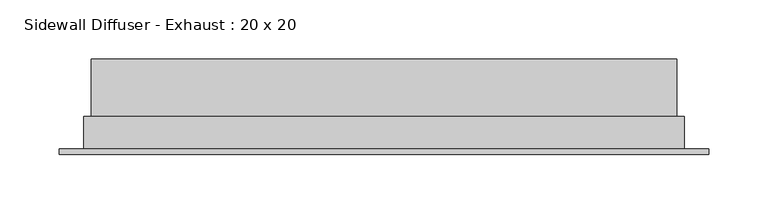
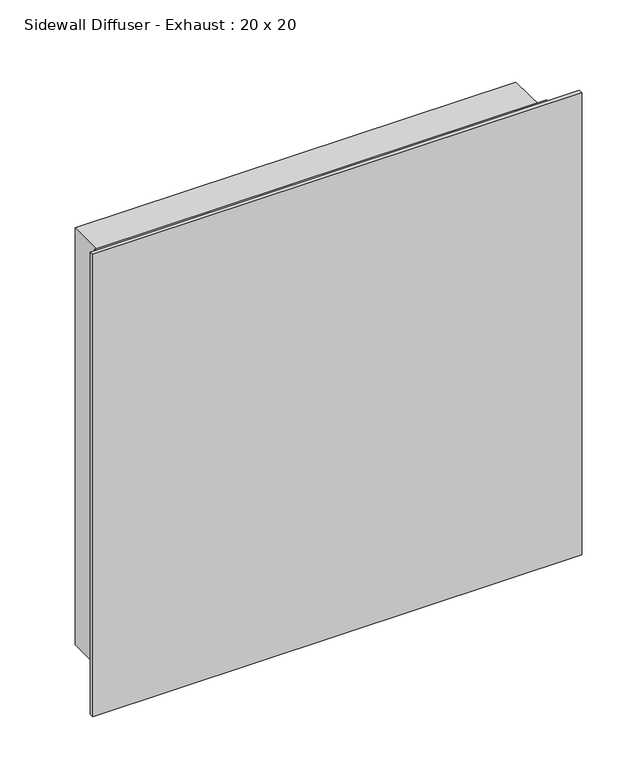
"""IFC4 building model written with IfcOpenShell, lengths in millimetres: air terminal geometry, Sidewall Diffuser - Exhaust : 20 x 20."""

import ifcopenshell
import ifcopenshell.guid

model = None  # the IFC model being written
_history = None  # IfcOwnerHistory: only IFC2X3 demands one
_inside = {}  # id of a spatial element -> (the spatial element, [elements in it])
_under = {}  # id of a project, library or spatial element -> (it, [spatial elements below it])
_declared = {}  # id of a project -> (the project, [libraries it declares])
_typed = {}  # id of a type object -> (the type object, [elements of that type])
_made_of = {}  # id of a material, layer set ... -> (it, [elements and type objects made of it])


def new_model(schema):
    """Start an empty IFC model of exactly this schema.

    Asked for "IFC4X3", IfcOpenShell would pick the latest addendum, in which some entities
    have other attributes; the version numbers below select the first issue.
    IFC2X3 requires an IfcOwnerHistory on every rooted entity: one is made here for all.
    """
    global model, _history
    if schema == "IFC4X3":
        model = ifcopenshell.file(schema_version=(4, 3, 0, 0))
    else:
        model = ifcopenshell.file(schema=schema)
    _inside.clear()
    _under.clear()
    _declared.clear()
    _typed.clear()
    _made_of.clear()
    _history = None
    if model.schema == "IFC2X3":
        org = make("IfcOrganization", Name="unknown")
        user = make(
            "IfcPersonAndOrganization",
            ThePerson=make("IfcPerson", FamilyName="unknown"),
            TheOrganization=org,
        )
        app = make(
            "IfcApplication",
            ApplicationDeveloper=org,
            Version="unknown",
            ApplicationFullName="unknown",
            ApplicationIdentifier="unknown",
        )
        _history = make(
            "IfcOwnerHistory",
            OwningUser=user,
            OwningApplication=app,
            ChangeAction="ADDED",
            CreationDate=0,
        )
    return model


def make(cls, **values):
    """One entity of the class cls with the attributes given. An attribute that is None is left unset."""
    return model.create_entity(
        cls, **{name: value for name, value in values.items() if value is not None}
    )


def rooted(cls, **values):
    """An entity with a GlobalId (a new one), such as an element, a storey or a relation."""
    return make(cls, GlobalId=ifcopenshell.guid.new(), OwnerHistory=_history, **values)


def si_unit(unit_type, name, prefix=None):
    """IfcSIUnit, for example si_unit("LENGTHUNIT", "METRE", prefix="MILLI")."""
    return make("IfcSIUnit", UnitType=unit_type, Prefix=prefix, Name=name)


def assignment(units):
    """IfcUnitAssignment: the units of a project."""
    return None if units is None else make("IfcUnitAssignment", Units=units)


def point(xyz):
    """IfcCartesianPoint."""
    return None if xyz is None else make("IfcCartesianPoint", Coordinates=xyz)


def direction(xyz):
    """IfcDirection."""
    return None if xyz is None else make("IfcDirection", DirectionRatios=xyz)


def frame(location, z_axis=None, x_axis=None):
    """IfcAxis2Placement3D, a coordinate frame: its origin and axes. An axis left out is left unset."""
    return make(
        "IfcAxis2Placement3D",
        Location=point(location),
        Axis=direction(z_axis),
        RefDirection=direction(x_axis),
    )


def origin():
    """The frame at (0, 0, 0) with its axes left unset."""
    return frame((0.0, 0.0, 0.0))


def place(relative_to, where):
    """IfcLocalPlacement: puts the frame where relative to a parent placement (None: the world)."""
    return make(
        "IfcLocalPlacement", PlacementRelTo=relative_to, RelativePlacement=where
    )


def context(
    kind, dimensions, precision=None, world=None, true_north=None, identifier=None
):
    """IfcGeometricRepresentationContext, for example the 3D "Model" context."""
    return make(
        "IfcGeometricRepresentationContext",
        ContextIdentifier=identifier,
        ContextType=kind,
        CoordinateSpaceDimension=dimensions,
        Precision=precision,
        WorldCoordinateSystem=world,
        TrueNorth=true_north,
    )


def project(units=None, contexts=None):
    """IfcProject with its units and contexts."""
    return rooted(
        "IfcProject",
        Name="project",
        RepresentationContexts=contexts,
        UnitsInContext=assignment(units),
    )


def spatial(cls, under=None, at=None, **own):
    """A site, building, storey or space (cls), placed at a placement, below another one or the project."""
    s = rooted(cls, ObjectPlacement=at, **own)
    if under is not None:
        _under.setdefault(under.id(), (under, []))[1].append(s)
    return s


def polyline(points):
    """IfcPolyline through the points."""
    return make("IfcPolyline", Points=[point(p) for p in points])


def outline(outer, holes=None, kind="AREA"):
    """IfcArbitraryClosedProfileDef: a profile drawn as a closed curve; with holes, ...WithVoids."""
    if holes is None:
        return make("IfcArbitraryClosedProfileDef", ProfileType=kind, OuterCurve=outer)
    return make(
        "IfcArbitraryProfileDefWithVoids",
        ProfileType=kind,
        OuterCurve=outer,
        InnerCurves=holes,
    )


def extrude(swept, where, along, depth):
    """IfcExtrudedAreaSolid: the profile swept, set in the frame where, extruded along a direction by depth."""
    return make(
        "IfcExtrudedAreaSolid",
        SweptArea=swept,
        Position=where,
        ExtrudedDirection=direction(along),
        Depth=depth,
    )


def shape(context_of_items, identifier, shape_type, items):
    """IfcShapeRepresentation: the items that make up one representation, for example the "Body"."""
    return make(
        "IfcShapeRepresentation",
        ContextOfItems=context_of_items,
        RepresentationIdentifier=identifier,
        RepresentationType=shape_type,
        Items=items,
    )


def source(mapping_origin, context_of_items, identifier, shape_type, items):
    """IfcRepresentationMap: a shape defined once, which mapped items show again and again."""
    return make(
        "IfcRepresentationMap",
        MappingOrigin=mapping_origin,
        MappedRepresentation=shape(context_of_items, identifier, shape_type, items),
    )


def transform(
    local_origin,
    x_axis=None,
    y_axis=None,
    z_axis=None,
    scale=None,
    scale2=None,
    scale3=None,
    uniform=True,
):
    """IfcCartesianTransformationOperator3D, or its non-uniform kind. x_axis, y_axis, z_axis: its Axis1, 2, 3."""
    if uniform:
        return make(
            "IfcCartesianTransformationOperator3D",
            Axis1=direction(x_axis),
            Axis2=direction(y_axis),
            LocalOrigin=point(local_origin),
            Scale=scale,
            Axis3=direction(z_axis),
        )
    return make(
        "IfcCartesianTransformationOperator3DnonUniform",
        Axis1=direction(x_axis),
        Axis2=direction(y_axis),
        LocalOrigin=point(local_origin),
        Scale=scale,
        Axis3=direction(z_axis),
        Scale2=scale2,
        Scale3=scale3,
    )


def mapped(mapping_source, mapping_target):
    """IfcMappedItem: shows the shape of a source again, moved by a transform."""
    return make(
        "IfcMappedItem", MappingSource=mapping_source, MappingTarget=mapping_target
    )


def made_of(thing, what):
    """Note that an element or type object is made of a material, layer set ...; save() writes the relation."""
    if what is not None:
        _made_of.setdefault(what.id(), (what, []))[1].append(thing)
    return thing


def element(
    cls,
    number,
    at=None,
    inside=None,
    cuts=None,
    type_object=None,
    material=None,
    context=None,
    identifier="Body",
    shape_type=None,
    held_by="IfcProductDefinitionShape",
    body=None,
    shapes=None,
    **own,
):
    """One element of the class cls, such as IfcWall. Its Tag is "e" and its number.

    at: its placement. inside: the storey or other place that contains it. cuts: it is an
    opening in that element (IfcRelVoidsElement). A single representation is given by context,
    identifier, shape_type and body (its items); several are given by shapes. held_by: the class
    of the entity that holds the representations. save() writes the other relations.
    """
    e = rooted(cls, Tag="e%d" % number, ObjectPlacement=at, **own)
    if body is not None:
        shapes = [shape(context, identifier, shape_type, body)]
    if shapes is not None:
        e.Representation = make(held_by, Representations=shapes)
    if inside is not None:
        _inside.setdefault(inside.id(), (inside, []))[1].append(e)
    if cuts is not None:
        rooted(
            "IfcRelVoidsElement", RelatingBuildingElement=cuts, RelatedOpeningElement=e
        )
    if type_object is not None:
        _typed.setdefault(type_object.id(), (type_object, []))[1].append(e)
    return made_of(e, material)


def aggregate(whole, parts):
    """IfcRelAggregates: a whole, such as a stair, and the parts it consists of."""
    return rooted("IfcRelAggregates", RelatingObject=whole, RelatedObjects=parts)


def save(model, path):
    """Write the relations noted so far, then the file.

    IfcRelAggregates (storeys below a building ...), IfcRelContainedInSpatialStructure (elements
    in a storey), IfcRelDefinesByType, IfcRelAssociatesMaterial and IfcRelDeclares: one each for
    every whole, place, type object, material and project.
    """
    for whole, parts in _under.values():
        aggregate(whole, parts)
    for where, things in _inside.values():
        rooted(
            "IfcRelContainedInSpatialStructure",
            RelatedElements=things,
            RelatingStructure=where,
        )
    for kind, things in _typed.values():
        rooted("IfcRelDefinesByType", RelatedObjects=things, RelatingType=kind)
    for what, things in _made_of.values():
        rooted("IfcRelAssociatesMaterial", RelatedObjects=things, RelatingMaterial=what)
    for by, libraries in _declared.values():
        rooted("IfcRelDeclares", RelatingContext=by, RelatedDefinitions=libraries)
    model.write(path)


def sidewall_diffuser_exhaust_20_x_20_0379b4b1(model_context):
    return source(origin(), model_context, "Body", "SweptSolid", [
        extrude(outline(polyline([(247.65, 27.384375), (-247.65, 27.384375), (-247.65, 76.2), (247.65, 76.2), (247.65, 27.384375)])), frame((0.0, 0.0, -247.65), z_axis=(0.0, 0.0, 1.0), x_axis=(1.0, 0.0, 0.0)), (0.0, 0.0, 1.0), 495.3),
        extrude(outline(polyline([(254.0, 0.0), (-254.0, 0.0), (-254.0, 27.384375), (254.0, 27.384375), (254.0, 0.0)])), frame((0.0, 0.0, -254.0), z_axis=(0.0, 0.0, 1.0), x_axis=(1.0, 0.0, 0.0)), (0.0, 0.0, 1.0), 508.0),
        extrude(outline(polyline([(274.6375, -4.7625), (-274.6375, -4.7625), (-274.6375, 0.0), (274.6375, 0.0), (274.6375, -4.7625)])), frame((0.0, 0.0, -274.6375), z_axis=(0.0, 0.0, 1.0), x_axis=(1.0, 0.0, 0.0)), (0.0, 0.0, 1.0), 549.275),
    ])


if __name__ == "__main__":
    model = new_model("IFC4")
    model_context = context("Model", 3, world=origin())
    ifc_project = project(units=[si_unit("LENGTHUNIT", "METRE", prefix="MILLI")], contexts=[model_context])
    site = spatial("IfcSite", under=ifc_project)
    building = spatial("IfcBuilding", under=site)
    placement = place(None, origin())
    sidewall_diffuser_exhaust_20_x_20_shape = sidewall_diffuser_exhaust_20_x_20_0379b4b1(model_context)
    element("IfcAirTerminal", 1, ObjectType="Sidewall Diffuser - Exhaust : 20 x 20", at=placement, inside=building, context=model_context, shape_type="MappedRepresentation", body=[
        mapped(sidewall_diffuser_exhaust_20_x_20_shape, transform((0.0, 0.0, 0.0), x_axis=(1.0, 0.0, 0.0), y_axis=(0.0, 1.0, 0.0), z_axis=(0.0, 0.0, 1.0))),
    ])
    save(model, "model.ifc")
